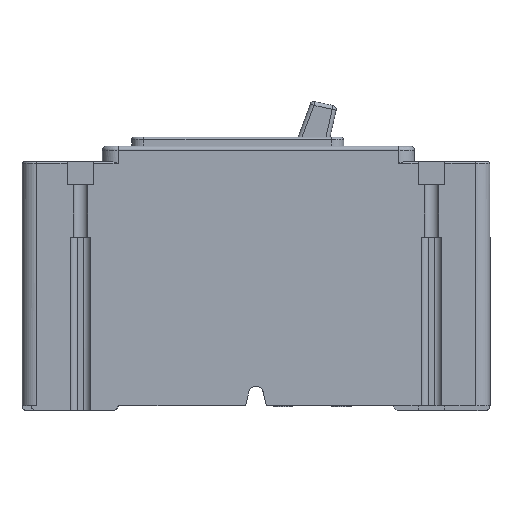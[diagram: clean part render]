
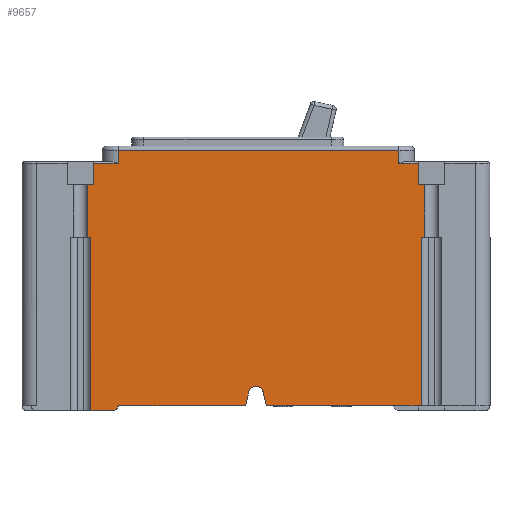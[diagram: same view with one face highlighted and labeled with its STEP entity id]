
A CAD part, left-side view. The second image highlights one B-rep face of the part: STEP entity #9657.
In plain terms, the highlighted planar face has unit normal (-1, 0, 0).
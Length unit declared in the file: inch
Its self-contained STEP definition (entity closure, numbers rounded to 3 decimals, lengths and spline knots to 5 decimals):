
#1565=CARTESIAN_POINT('',(0.,0.844,2.799));
#1566=VERTEX_POINT('',#1565);
#1574=CARTESIAN_POINT('',(0.,0.844,2.127));
#1575=VERTEX_POINT('',#1574);
#1576=CARTESIAN_POINT('',(0.,0.844,2.127));
#1577=DIRECTION('',(0.0,0.0,1.0));
#1578=VECTOR('',#1577,0.672);
#1579=LINE('',#1576,#1578);
#1580=EDGE_CURVE('',#1575,#1566,#1579,.T.);
#1608=CARTESIAN_POINT('',(0.,5.156,2.127));
#1609=VERTEX_POINT('',#1608);
#1617=CARTESIAN_POINT('',(0.,5.156,2.799));
#1618=VERTEX_POINT('',#1617);
#1619=CARTESIAN_POINT('',(0.,5.156,2.799));
#1620=DIRECTION('',(0.0,0.0,-1.0));
#1621=VECTOR('',#1620,0.672);
#1622=LINE('',#1619,#1621);
#1623=EDGE_CURVE('',#1618,#1609,#1622,.T.);
#1724=CARTESIAN_POINT('',(0.,0.922,2.799));
#1725=VERTEX_POINT('',#1724);
#1732=CARTESIAN_POINT('',(0.,0.844,2.799));
#1733=DIRECTION('',(0.0,1.0,0.0));
#1734=VECTOR('',#1733,0.078);
#1735=LINE('',#1732,#1734);
#1736=EDGE_CURVE('',#1566,#1725,#1735,.T.);
#1808=CARTESIAN_POINT('',(0.,0.922,3.076));
#1809=VERTEX_POINT('',#1808);
#1819=CARTESIAN_POINT('',(0.,0.922,2.799));
#1820=DIRECTION('',(0.0,0.0,1.0));
#1821=VECTOR('',#1820,0.277);
#1822=LINE('',#1819,#1821);
#1823=EDGE_CURVE('',#1725,#1809,#1822,.T.);
#1945=CARTESIAN_POINT('',(0.,0.88,2.127));
#1946=VERTEX_POINT('',#1945);
#1947=CARTESIAN_POINT('',(0.,0.88,2.127));
#1948=DIRECTION('',(0.0,-1.0,0.0));
#1949=VECTOR('',#1948,0.036);
#1950=LINE('',#1947,#1949);
#1951=EDGE_CURVE('',#1946,#1575,#1950,.T.);
#1969=CARTESIAN_POINT('',(0.,0.88,-0.033));
#1970=VERTEX_POINT('',#1969);
#1980=CARTESIAN_POINT('',(0.,0.88,-0.033));
#1981=DIRECTION('',(0.0,0.0,1.0));
#1982=VECTOR('',#1981,2.16);
#1983=LINE('',#1980,#1982);
#1984=EDGE_CURVE('',#1970,#1946,#1983,.T.);
#2139=CARTESIAN_POINT('',(0.,5.078,3.076));
#2140=VERTEX_POINT('',#2139);
#2157=CARTESIAN_POINT('',(0.,5.078,2.799));
#2158=VERTEX_POINT('',#2157);
#2165=CARTESIAN_POINT('',(0.,5.078,3.076));
#2166=DIRECTION('',(0.0,0.0,-1.0));
#2167=VECTOR('',#2166,0.277);
#2168=LINE('',#2165,#2167);
#2169=EDGE_CURVE('',#2140,#2158,#2168,.T.);
#2180=CARTESIAN_POINT('',(0.,5.078,2.799));
#2181=DIRECTION('',(0.0,1.0,0.0));
#2182=VECTOR('',#2181,0.078);
#2183=LINE('',#2180,#2182);
#2184=EDGE_CURVE('',#2158,#1618,#2183,.T.);
#2279=CARTESIAN_POINT('',(0.,5.12,2.127));
#2280=VERTEX_POINT('',#2279);
#2288=CARTESIAN_POINT('',(0.,5.156,2.127));
#2289=DIRECTION('',(0.0,-1.0,0.0));
#2290=VECTOR('',#2289,0.036);
#2291=LINE('',#2288,#2290);
#2292=EDGE_CURVE('',#1609,#2280,#2291,.T.);
#2302=CARTESIAN_POINT('',(0.,5.12,-0.09273));
#2303=VERTEX_POINT('',#2302);
#2313=CARTESIAN_POINT('',(0.,5.12,2.127));
#2314=DIRECTION('',(0.0,0.0,-1.0));
#2315=VECTOR('',#2314,2.21973);
#2316=LINE('',#2313,#2315);
#2317=EDGE_CURVE('',#2280,#2303,#2316,.T.);
#2931=CARTESIAN_POINT('',(0.,4.76,-0.033));
#2932=VERTEX_POINT('',#2931);
#2939=CARTESIAN_POINT('',(0.,4.82,-0.093));
#2940=VERTEX_POINT('',#2939);
#2941=CARTESIAN_POINT('',(0.,4.76,-0.033));
#2942=DIRECTION('',(0.,0.707,-0.707));
#2943=VECTOR('',#2942,0.08485);
#2944=LINE('',#2941,#2943);
#2945=EDGE_CURVE('',#2932,#2940,#2944,.T.);
#2978=CARTESIAN_POINT('',(0.,4.82,-0.093));
#2979=DIRECTION('',(0.,1.,0.001));
#2980=VECTOR('',#2979,0.3);
#2981=LINE('',#2978,#2980);
#2982=EDGE_CURVE('',#2940,#2303,#2981,.T.);
#8454=CARTESIAN_POINT('',(0.,1.169,3.243));
#8455=VERTEX_POINT('',#8454);
#8463=CARTESIAN_POINT('',(0.,1.169,3.076));
#8464=VERTEX_POINT('',#8463);
#8465=CARTESIAN_POINT('',(0.,1.169,3.243));
#8466=DIRECTION('',(0.,0.,-1.));
#8467=VECTOR('',#8466,0.167);
#8468=LINE('',#8465,#8467);
#8469=EDGE_CURVE('',#8455,#8464,#8468,.T.);
#8538=CARTESIAN_POINT('',(0.,4.769,3.243));
#8539=VERTEX_POINT('',#8538);
#8557=CARTESIAN_POINT('',(0.,4.769,3.076));
#8558=VERTEX_POINT('',#8557);
#8568=CARTESIAN_POINT('',(0.,4.769,3.076));
#8569=DIRECTION('',(0.0,0.0,1.0));
#8570=VECTOR('',#8569,0.167);
#8571=LINE('',#8568,#8570);
#8572=EDGE_CURVE('',#8558,#8539,#8571,.T.);
#8735=CARTESIAN_POINT('',(0.,4.769,3.243));
#8736=DIRECTION('',(0.0,-1.0,0.0));
#8737=VECTOR('',#8736,3.6);
#8738=LINE('',#8735,#8737);
#8739=EDGE_CURVE('',#8539,#8455,#8738,.T.);
#9576=CARTESIAN_POINT('',(0.,2.99934,1.60674));
#9577=DIRECTION('',(-1.0,0.0,0.0));
#9578=DIRECTION('',(0.0,0.0,1.0));
#9579=AXIS2_PLACEMENT_3D('',#9576,#9577,#9578);
#9580=PLANE('',#9579);
#9581=CARTESIAN_POINT('',(0.,1.133,-0.033));
#9582=VERTEX_POINT('',#9581);
#9583=CARTESIAN_POINT('',(0.,1.133,-0.033));
#9584=DIRECTION('',(0.,-1.0,0.));
#9585=VECTOR('',#9584,0.253);
#9586=LINE('',#9583,#9585);
#9587=EDGE_CURVE('',#9582,#1970,#9586,.T.);
#9588=ORIENTED_EDGE('',*,*,#9587,.T.);
#9589=ORIENTED_EDGE('',*,*,#1984,.T.);
#9590=ORIENTED_EDGE('',*,*,#1951,.T.);
#9591=ORIENTED_EDGE('',*,*,#1580,.T.);
#9592=ORIENTED_EDGE('',*,*,#1736,.T.);
#9593=ORIENTED_EDGE('',*,*,#1823,.T.);
#9594=CARTESIAN_POINT('',(0.,1.169,3.076));
#9595=DIRECTION('',(0.,-1.,0.));
#9596=VECTOR('',#9595,0.247);
#9597=LINE('',#9594,#9596);
#9598=EDGE_CURVE('',#8464,#1809,#9597,.T.);
#9599=ORIENTED_EDGE('',*,*,#9598,.F.);
#9600=ORIENTED_EDGE('',*,*,#8469,.F.);
#9601=ORIENTED_EDGE('',*,*,#8739,.F.);
#9602=ORIENTED_EDGE('',*,*,#8572,.F.);
#9603=CARTESIAN_POINT('',(0.,5.078,3.076));
#9604=DIRECTION('',(0.,-1.0,0.));
#9605=VECTOR('',#9604,0.309);
#9606=LINE('',#9603,#9605);
#9607=EDGE_CURVE('',#2140,#8558,#9606,.T.);
#9608=ORIENTED_EDGE('',*,*,#9607,.F.);
#9609=ORIENTED_EDGE('',*,*,#2169,.T.);
#9610=ORIENTED_EDGE('',*,*,#2184,.T.);
#9611=ORIENTED_EDGE('',*,*,#1623,.T.);
#9612=ORIENTED_EDGE('',*,*,#2292,.T.);
#9613=ORIENTED_EDGE('',*,*,#2317,.T.);
#9614=ORIENTED_EDGE('',*,*,#2982,.F.);
#9615=ORIENTED_EDGE('',*,*,#2945,.F.);
#9616=CARTESIAN_POINT('',(0.,3.133,-0.033));
#9617=VERTEX_POINT('',#9616);
#9618=CARTESIAN_POINT('',(0.,3.133,-0.033));
#9619=DIRECTION('',(0.0,1.0,0.0));
#9620=VECTOR('',#9619,1.627);
#9621=LINE('',#9618,#9620);
#9622=EDGE_CURVE('',#9617,#2932,#9621,.T.);
#9623=ORIENTED_EDGE('',*,*,#9622,.F.);
#9624=CARTESIAN_POINT('',(0.,3.09153,0.1444));
#9625=VERTEX_POINT('',#9624);
#9626=CARTESIAN_POINT('',(0.,3.133,-0.033));
#9627=DIRECTION('',(0.,-0.228,0.974));
#9628=VECTOR('',#9627,0.18218);
#9629=LINE('',#9626,#9628);
#9630=EDGE_CURVE('',#9617,#9625,#9629,.T.);
#9631=ORIENTED_EDGE('',*,*,#9630,.T.);
#9632=CARTESIAN_POINT('',(0.,2.90847,0.1444));
#9633=VERTEX_POINT('',#9632);
#9634=CARTESIAN_POINT('',(0.,3.,0.123));
#9635=DIRECTION('',(1.0,0.0,0.0));
#9636=DIRECTION('',(0.0,-0.974,0.228));
#9637=AXIS2_PLACEMENT_3D('',#9634,#9635,#9636);
#9638=CIRCLE('',#9637,0.094);
#9639=EDGE_CURVE('',#9625,#9633,#9638,.T.);
#9640=ORIENTED_EDGE('',*,*,#9639,.T.);
#9641=CARTESIAN_POINT('',(0.,2.867,-0.033));
#9642=VERTEX_POINT('',#9641);
#9643=CARTESIAN_POINT('',(0.,2.90847,0.1444));
#9644=DIRECTION('',(0.,-0.228,-0.974));
#9645=VECTOR('',#9644,0.18218);
#9646=LINE('',#9643,#9645);
#9647=EDGE_CURVE('',#9633,#9642,#9646,.T.);
#9648=ORIENTED_EDGE('',*,*,#9647,.T.);
#9649=CARTESIAN_POINT('',(0.,1.133,-0.033));
#9650=DIRECTION('',(0.0,1.0,0.0));
#9651=VECTOR('',#9650,1.734);
#9652=LINE('',#9649,#9651);
#9653=EDGE_CURVE('',#9582,#9642,#9652,.T.);
#9654=ORIENTED_EDGE('',*,*,#9653,.F.);
#9655=EDGE_LOOP('',(#9588,#9589,#9590,#9591,#9592,#9593,#9599,#9600,#9601,#9602,#9608,#9609,#9610,#9611,#9612,#9613,#9614,#9615,#9623,#9631,#9640,#9648,#9654));
#9656=FACE_OUTER_BOUND('',#9655,.T.);
#9657=ADVANCED_FACE('',(#9656),#9580,.T.);
